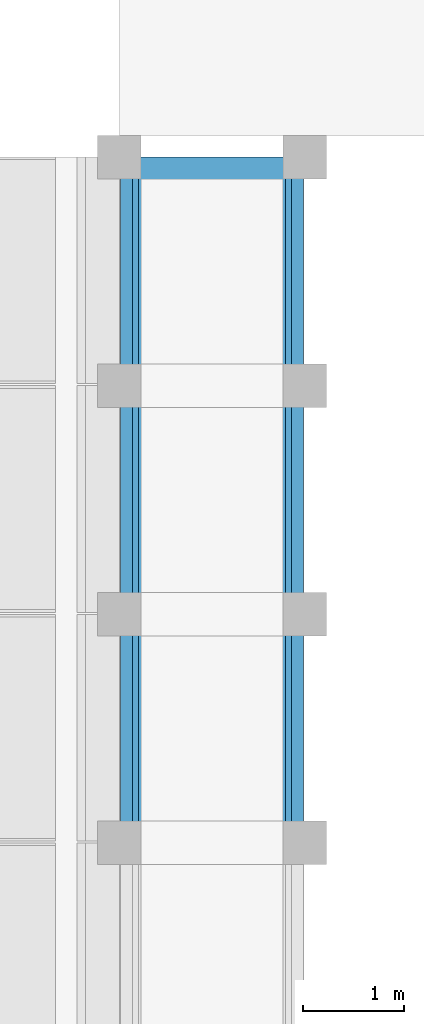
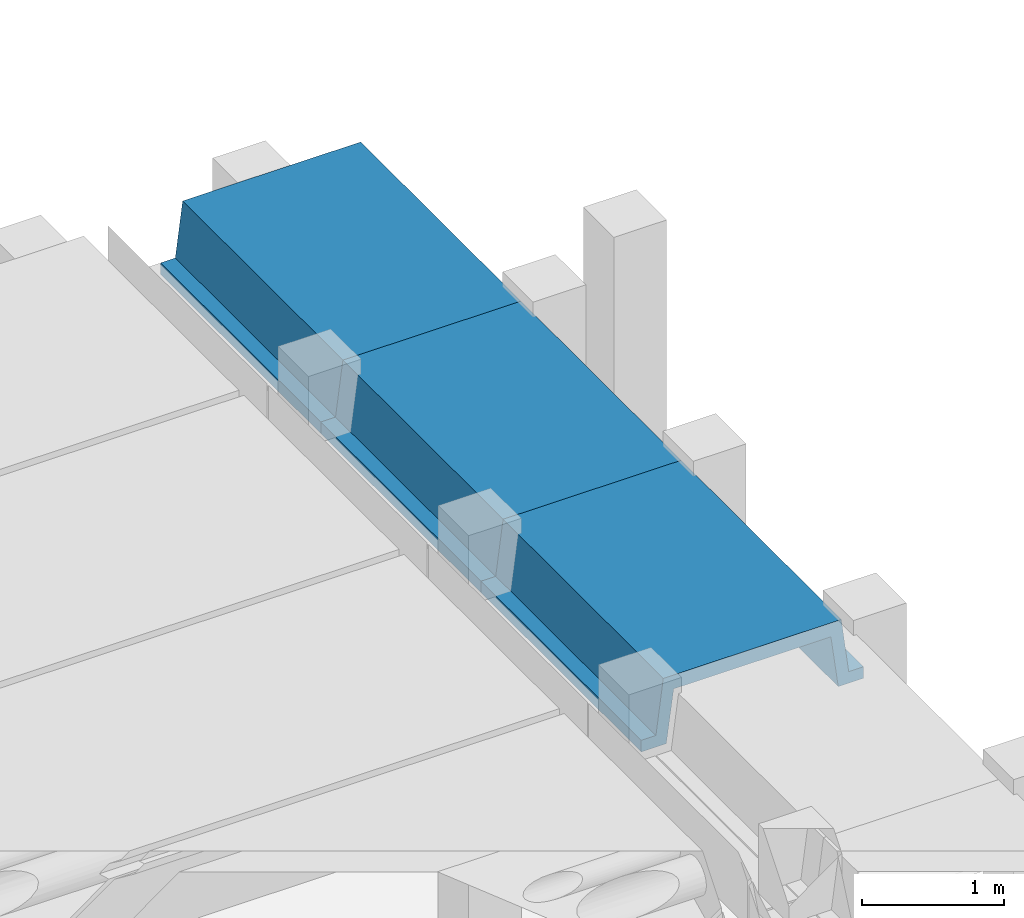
# One storey, part 12 of 18: 3 beams.
"""IFC2X3 building model written with IfcOpenShell, lengths in millimetres."""

import ifcopenshell
import ifcopenshell.guid

model = None  # the IFC model being written
_history = None  # IfcOwnerHistory: only IFC2X3 demands one
_inside = {}  # id of a spatial element -> (the spatial element, [elements in it])
_under = {}  # id of a project, library or spatial element -> (it, [spatial elements below it])
_declared = {}  # id of a project -> (the project, [libraries it declares])
_typed = {}  # id of a type object -> (the type object, [elements of that type])
_made_of = {}  # id of a material, layer set ... -> (it, [elements and type objects made of it])


def new_model(schema):
    """Start an empty IFC model of exactly this schema.

    Asked for "IFC4X3", IfcOpenShell would pick the latest addendum, in which some entities
    have other attributes; the version numbers below select the first issue.
    IFC2X3 requires an IfcOwnerHistory on every rooted entity: one is made here for all.
    """
    global model, _history
    if schema == "IFC4X3":
        model = ifcopenshell.file(schema_version=(4, 3, 0, 0))
    else:
        model = ifcopenshell.file(schema=schema)
    _inside.clear()
    _under.clear()
    _declared.clear()
    _typed.clear()
    _made_of.clear()
    _history = None
    if model.schema == "IFC2X3":
        org = make("IfcOrganization", Name="unknown")
        user = make(
            "IfcPersonAndOrganization",
            ThePerson=make("IfcPerson", FamilyName="unknown"),
            TheOrganization=org,
        )
        app = make(
            "IfcApplication",
            ApplicationDeveloper=org,
            Version="unknown",
            ApplicationFullName="unknown",
            ApplicationIdentifier="unknown",
        )
        _history = make(
            "IfcOwnerHistory",
            OwningUser=user,
            OwningApplication=app,
            ChangeAction="ADDED",
            CreationDate=0,
        )
    return model


def make(cls, **values):
    """One entity of the class cls with the attributes given. An attribute that is None is left unset."""
    return model.create_entity(
        cls, **{name: value for name, value in values.items() if value is not None}
    )


def entity(cls, *values):
    """Any entity or typed value of the class cls, its attributes in the order of the schema. None: left unset."""
    e = model.create_entity(cls)
    for i, value in enumerate(values):
        if value is not None:
            e[i] = value
    return e


def rooted(cls, **values):
    """An entity with a GlobalId (a new one), such as an element, a storey or a relation."""
    return make(cls, GlobalId=ifcopenshell.guid.new(), OwnerHistory=_history, **values)


def si_unit(unit_type, name, prefix=None):
    """IfcSIUnit, for example si_unit("LENGTHUNIT", "METRE", prefix="MILLI")."""
    return make("IfcSIUnit", UnitType=unit_type, Prefix=prefix, Name=name)


def converted_unit(unit_type, name, factor, base, dimensions=None, offset=None):
    """IfcConversionBasedUnit, such as the inch: factor (a typed value) times the base unit."""
    return make(
        "IfcConversionBasedUnit"
        if offset is None
        else "IfcConversionBasedUnitWithOffset",
        ConversionOffset=offset,
        Dimensions=None
        if dimensions is None
        else entity("IfcDimensionalExponents", *dimensions),
        UnitType=unit_type,
        Name=name,
        ConversionFactor=make(
            "IfcMeasureWithUnit", ValueComponent=factor, UnitComponent=base
        ),
    )


def derived_unit(unit_type, elements):
    """IfcDerivedUnit: a product of units, each with its exponent."""
    return make(
        "IfcDerivedUnit",
        Elements=[
            make("IfcDerivedUnitElement", Unit=unit, Exponent=power)
            for unit, power in elements
        ],
        UnitType=unit_type,
    )


def assignment(units):
    """IfcUnitAssignment: the units of a project."""
    return None if units is None else make("IfcUnitAssignment", Units=units)


def point(xyz):
    """IfcCartesianPoint."""
    return None if xyz is None else make("IfcCartesianPoint", Coordinates=xyz)


def direction(xyz):
    """IfcDirection."""
    return None if xyz is None else make("IfcDirection", DirectionRatios=xyz)


def frame(location, z_axis=None, x_axis=None):
    """IfcAxis2Placement3D, a coordinate frame: its origin and axes. An axis left out is left unset."""
    return make(
        "IfcAxis2Placement3D",
        Location=point(location),
        Axis=direction(z_axis),
        RefDirection=direction(x_axis),
    )


def origin():
    """The frame at (0, 0, 0) with its axes left unset."""
    return frame((0.0, 0.0, 0.0))


def place(relative_to, where):
    """IfcLocalPlacement: puts the frame where relative to a parent placement (None: the world)."""
    return make(
        "IfcLocalPlacement", PlacementRelTo=relative_to, RelativePlacement=where
    )


def context(
    kind, dimensions, precision=None, world=None, true_north=None, identifier=None
):
    """IfcGeometricRepresentationContext, for example the 3D "Model" context."""
    return make(
        "IfcGeometricRepresentationContext",
        ContextIdentifier=identifier,
        ContextType=kind,
        CoordinateSpaceDimension=dimensions,
        Precision=precision,
        WorldCoordinateSystem=world,
        TrueNorth=true_north,
    )


def subcontext(parent, identifier, kind, view, scale=None):
    """IfcGeometricRepresentationSubContext, for example "Body" below "Model"."""
    return make(
        "IfcGeometricRepresentationSubContext",
        ContextIdentifier=identifier,
        ContextType=kind,
        ParentContext=parent,
        TargetScale=scale,
        TargetView=view,
    )


def project(units=None, contexts=None):
    """IfcProject with its units and contexts."""
    return rooted(
        "IfcProject",
        Name="project",
        RepresentationContexts=contexts,
        UnitsInContext=assignment(units),
    )


def spatial(cls, under=None, at=None, **own):
    """A site, building, storey or space (cls), placed at a placement, below another one or the project."""
    s = rooted(cls, ObjectPlacement=at, **own)
    if under is not None:
        _under.setdefault(under.id(), (under, []))[1].append(s)
    return s


def polyline(points):
    """IfcPolyline through the points."""
    return make("IfcPolyline", Points=[point(p) for p in points])


def outline(outer, holes=None, kind="AREA"):
    """IfcArbitraryClosedProfileDef: a profile drawn as a closed curve; with holes, ...WithVoids."""
    if holes is None:
        return make("IfcArbitraryClosedProfileDef", ProfileType=kind, OuterCurve=outer)
    return make(
        "IfcArbitraryProfileDefWithVoids",
        ProfileType=kind,
        OuterCurve=outer,
        InnerCurves=holes,
    )


def extrude(swept, where, along, depth):
    """IfcExtrudedAreaSolid: the profile swept, set in the frame where, extruded along a direction by depth."""
    return make(
        "IfcExtrudedAreaSolid",
        SweptArea=swept,
        Position=where,
        ExtrudedDirection=direction(along),
        Depth=depth,
    )


def shape(context_of_items, identifier, shape_type, items):
    """IfcShapeRepresentation: the items that make up one representation, for example the "Body"."""
    return make(
        "IfcShapeRepresentation",
        ContextOfItems=context_of_items,
        RepresentationIdentifier=identifier,
        RepresentationType=shape_type,
        Items=items,
    )


def material(Name=None, Category=None):
    """IfcMaterial."""
    return make("IfcMaterial", Name=Name, Category=Category)


def made_of(thing, what):
    """Note that an element or type object is made of a material, layer set ...; save() writes the relation."""
    if what is not None:
        _made_of.setdefault(what.id(), (what, []))[1].append(thing)
    return thing


def type_object(cls, material=None, **own):
    """A type object (cls), such as IfcWallType, which elements share."""
    return made_of(rooted(cls, **own), material)


def element(
    cls,
    number,
    at=None,
    inside=None,
    cuts=None,
    type_object=None,
    material=None,
    context=None,
    identifier="Body",
    shape_type=None,
    held_by="IfcProductDefinitionShape",
    body=None,
    shapes=None,
    **own,
):
    """One element of the class cls, such as IfcWall. Its Tag is "e" and its number.

    at: its placement. inside: the storey or other place that contains it. cuts: it is an
    opening in that element (IfcRelVoidsElement). A single representation is given by context,
    identifier, shape_type and body (its items); several are given by shapes. held_by: the class
    of the entity that holds the representations. save() writes the other relations.
    """
    e = rooted(cls, Tag="e%d" % number, ObjectPlacement=at, **own)
    if body is not None:
        shapes = [shape(context, identifier, shape_type, body)]
    if shapes is not None:
        e.Representation = make(held_by, Representations=shapes)
    if inside is not None:
        _inside.setdefault(inside.id(), (inside, []))[1].append(e)
    if cuts is not None:
        rooted(
            "IfcRelVoidsElement", RelatingBuildingElement=cuts, RelatedOpeningElement=e
        )
    if type_object is not None:
        _typed.setdefault(type_object.id(), (type_object, []))[1].append(e)
    return made_of(e, material)


def aggregate(whole, parts):
    """IfcRelAggregates: a whole, such as a stair, and the parts it consists of."""
    return rooted("IfcRelAggregates", RelatingObject=whole, RelatedObjects=parts)


def save(model, path):
    """Write the relations noted so far, then the file.

    IfcRelAggregates (storeys below a building ...), IfcRelContainedInSpatialStructure (elements
    in a storey), IfcRelDefinesByType, IfcRelAssociatesMaterial and IfcRelDeclares: one each for
    every whole, place, type object, material and project.
    """
    for whole, parts in _under.values():
        aggregate(whole, parts)
    for where, things in _inside.values():
        rooted(
            "IfcRelContainedInSpatialStructure",
            RelatedElements=things,
            RelatingStructure=where,
        )
    for kind, things in _typed.values():
        rooted("IfcRelDefinesByType", RelatedObjects=things, RelatingType=kind)
    for what, things in _made_of.values():
        rooted("IfcRelAssociatesMaterial", RelatedObjects=things, RelatingMaterial=what)
    for by, libraries in _declared.values():
        rooted("IfcRelDeclares", RelatingContext=by, RelatedDefinitions=libraries)
    model.write(path)


model = new_model("IFC2X3")

# Units and contexts
model_context = context("Model", 3, precision=0.01, world=origin(), true_north=direction((6.12303176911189e-17, 1.0)))
body_context = subcontext(model_context, "Body", "Model", "MODEL_VIEW")
ifc_project = project(units=[si_unit("LENGTHUNIT", "METRE", prefix="MILLI"), si_unit("AREAUNIT", "SQUARE_METRE"), si_unit("VOLUMEUNIT", "CUBIC_METRE"), converted_unit("PLANEANGLEUNIT", "DEGREE", entity("IfcRatioMeasure", 0.0174532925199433), si_unit("PLANEANGLEUNIT", "RADIAN"), dimensions=[0, 0, 0, 0, 0, 0, 0]), si_unit("MASSUNIT", "GRAM", prefix="KILO"), derived_unit("MASSDENSITYUNIT", [(si_unit("MASSUNIT", "GRAM", prefix="KILO"), 1), (si_unit("LENGTHUNIT", "METRE"), -3)]), derived_unit("MOMENTOFINERTIAUNIT", [(si_unit("LENGTHUNIT", "METRE"), 4)]), si_unit("TIMEUNIT", "SECOND"), si_unit("FREQUENCYUNIT", "HERTZ"), si_unit("THERMODYNAMICTEMPERATUREUNIT", "DEGREE_CELSIUS"), derived_unit("THERMALTRANSMITTANCEUNIT", [(si_unit("MASSUNIT", "GRAM", prefix="KILO"), 1), (si_unit("THERMODYNAMICTEMPERATUREUNIT", "KELVIN"), -1), (si_unit("TIMEUNIT", "SECOND"), -3)]), derived_unit("VOLUMETRICFLOWRATEUNIT", [(si_unit("LENGTHUNIT", "METRE"), 3), (si_unit("TIMEUNIT", "SECOND"), -1)]), si_unit("ELECTRICCURRENTUNIT", "AMPERE"), si_unit("ELECTRICVOLTAGEUNIT", "VOLT"), si_unit("POWERUNIT", "WATT"), si_unit("FORCEUNIT", "NEWTON", prefix="KILO"), si_unit("ILLUMINANCEUNIT", "LUX"), si_unit("LUMINOUSFLUXUNIT", "LUMEN"), si_unit("LUMINOUSINTENSITYUNIT", "CANDELA"), derived_unit("USERDEFINED", [(si_unit("MASSUNIT", "GRAM", prefix="KILO"), -1), (si_unit("LENGTHUNIT", "METRE"), -2), (si_unit("TIMEUNIT", "SECOND"), 3), (si_unit("LUMINOUSFLUXUNIT", "LUMEN"), 1)]), derived_unit("LINEARVELOCITYUNIT", [(si_unit("LENGTHUNIT", "METRE"), 1), (si_unit("TIMEUNIT", "SECOND"), -1)]), si_unit("PRESSUREUNIT", "PASCAL"), derived_unit("USERDEFINED", [(si_unit("LENGTHUNIT", "METRE"), -2), (si_unit("MASSUNIT", "GRAM", prefix="KILO"), 1), (si_unit("TIMEUNIT", "SECOND"), -2)]), derived_unit("LINEARFORCEUNIT", [(si_unit("MASSUNIT", "GRAM", prefix="KILO"), 1), (si_unit("LENGTHUNIT", "METRE"), 1), (si_unit("TIMEUNIT", "SECOND"), -2), (si_unit("LENGTHUNIT", "METRE"), -1)]), derived_unit("PLANARFORCEUNIT", [(si_unit("MASSUNIT", "GRAM", prefix="KILO"), 1), (si_unit("LENGTHUNIT", "METRE"), 1), (si_unit("TIMEUNIT", "SECOND"), -2), (si_unit("LENGTHUNIT", "METRE"), -2)])], contexts=[model_context])

# Site, building, storey
site_placement = place(None, frame((10627.5135316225, 21939.0796949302, 0.0)))
site = spatial("IfcSite", under=ifc_project, at=site_placement, Name="Default", CompositionType="ELEMENT")
building_placement = place(site_placement, origin())
building = spatial("IfcBuilding", under=site, at=building_placement, CompositionType="ELEMENT")
storey_placement = place(building_placement, frame((0.0, 0.0, 3660.0)))
storey = spatial("IfcBuildingStorey", under=building, at=storey_placement, Name="R+1", CompositionType="ELEMENT", Elevation=3660.0)

# Beams
ifc_material = material(Name="Concrete, Precast Smooth, Light Grey")
beam_type = type_object("IfcBeamType", Name="Poutre petite:Poutre petite", PredefinedType="NOTDEFINED")
beam_1_placement = place(storey_placement, frame((667.48646837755, 14220.9203050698, 3530.0), z_axis=(0.0, 0.0, 1.0), x_axis=(0.0, 1.0, 0.0)))
element("IfcBeam", 1, at=beam_1_placement, inside=storey, type_object=beam_type, material=ifc_material, Name="Poutre petite:Poutre petite", ObjectType="Poutre petite:Poutre petite", context=body_context, shape_type="SweptSolid", body=[
    extrude(outline(polyline([(103.333217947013, -905.013684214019), (203.333564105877, -905.013684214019), (203.333564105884, -700.013730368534), (-246.666782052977, -640.013684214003), (-246.666782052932, 640.013497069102), (203.333564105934, 700.013543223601), (203.333564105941, 905.014058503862), (103.333217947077, 905.014058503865), (103.333217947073, 785.01349706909), (-366.666782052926, 725.013497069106), (-366.666782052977, -725.013684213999), (103.333217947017, -785.013684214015), (103.333217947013, -905.013684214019)])), frame((0.0, -0.000187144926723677, -366.666782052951), z_axis=(1.0, 0.0, 0.0), x_axis=(0.0, 0.0, -1.0)), (0.0, 0.0, 1.0), 2260.0),
])
beam_2_placement = place(storey_placement, frame((667.486468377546, 11960.9203050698, 3530.0), z_axis=(0.0, 0.0, 1.0), x_axis=(0.0, 1.0, 0.0)))
element("IfcBeam", 2, at=beam_2_placement, inside=storey, type_object=beam_type, material=ifc_material, Name="Poutre petite:Poutre petite", ObjectType="Poutre petite:Poutre petite", context=body_context, shape_type="SweptSolid", body=[
    extrude(outline(polyline([(103.333217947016, -905.013684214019), (203.33356410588, -905.013684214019), (203.333564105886, -700.013730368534), (-246.666782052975, -640.013684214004), (-246.666782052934, 640.013497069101), (203.333564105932, 700.013543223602), (203.333564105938, 905.014058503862), (103.333217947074, 905.014058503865), (103.33321794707, 785.01349706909), (-366.666782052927, 725.013497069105), (-366.666782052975, -725.013684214), (103.333217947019, -785.013684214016), (103.333217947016, -905.013684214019)])), frame((0.0, -0.000187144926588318, -366.666782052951), z_axis=(1.0, 0.0, 0.0), x_axis=(0.0, 0.0, -1.0)), (0.0, 0.0, 1.0), 2260.0),
])
beam_3_placement = place(storey_placement, frame((667.48646837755, 9700.92030506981, 3530.0), z_axis=(0.0, 0.0, 1.0), x_axis=(0.0, 1.0, 0.0)))
element("IfcBeam", 3, at=beam_3_placement, inside=storey, type_object=beam_type, material=ifc_material, Name="Poutre petite:Poutre petite", ObjectType="Poutre petite:Poutre petite", context=body_context, shape_type="SweptSolid", body=[
    extrude(outline(polyline([(103.333217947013, -905.013684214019), (203.333564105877, -905.013684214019), (203.333564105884, -700.013730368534), (-246.666782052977, -640.013684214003), (-246.666782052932, 640.013497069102), (203.333564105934, 700.013543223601), (203.333564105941, 905.014058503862), (103.333217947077, 905.014058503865), (103.333217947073, 785.01349706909), (-366.666782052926, 725.013497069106), (-366.666782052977, -725.013684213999), (103.333217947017, -785.013684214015), (103.333217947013, -905.013684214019)])), frame((0.0, -0.000187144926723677, -366.666782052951), z_axis=(1.0, 0.0, 0.0), x_axis=(0.0, 0.0, -1.0)), (0.0, 0.0, 1.0), 2260.0),
])

save(model, "model.ifc")
